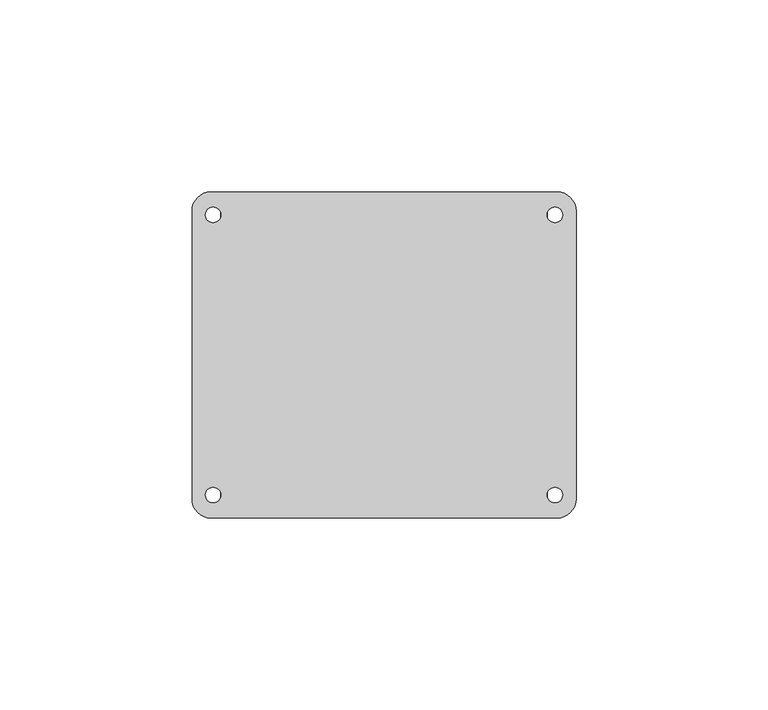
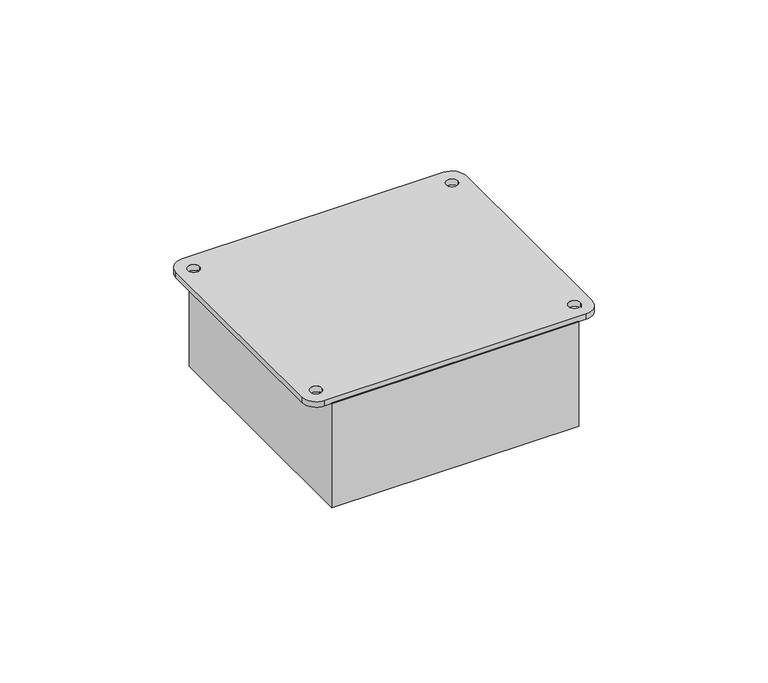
"""IFC4 building model written with IfcOpenShell, lengths in millimetres: light fixture geometry, GENILED_Светильник светодиодный_Griliato Tetris : Griliato Tetris x1 для ячейки 100x100 10Вт 3000К Микропризма."""

from ifc_helpers import new_model, si_unit, point, frame, frame_2d, origin, origin_with_axes, place, context, project, spatial, polyline, circle_curve, trimmed, segment, composite_curve, outline, extrude, source, transform, mapped, element, save


def light_fixture_b95e81a3(model_context):
    return source(origin(), model_context, "Body", "SweptSolid", [
        extrude(outline(polyline([(42.5, 42.5), (42.5, -42.5), (-42.5, -42.5), (-42.5, 42.5), (42.5, 42.5)])), origin_with_axes(), (0.0, 0.0, 1.0), 38.0),
        extrude(outline(composite_curve([segment(trimmed(circle_curve(frame_2d((45.0, 37.5)), 5.0), [point((45.0, 42.5))], [point((50.0, 37.5))], False, "CARTESIAN"), True, "CONTINUOUS"), segment(polyline([(50.0, 37.5), (50.0, -37.5)]), True, "CONTINUOUS"), segment(trimmed(circle_curve(frame_2d((45.0, -37.5)), 5.0), [point((50.0, -37.5))], [point((45.0, -42.5))], False, "CARTESIAN"), True, "CONTINUOUS"), segment(polyline([(45.0, -42.5), (-45.0, -42.5)]), True, "CONTINUOUS"), segment(trimmed(circle_curve(frame_2d((-45.0, -37.5)), 5.0), [point((-45.0, -42.5))], [point((-50.0, -37.5))], False, "CARTESIAN"), True, "CONTINUOUS"), segment(polyline([(-50.0, -37.5), (-50.0, 37.5)]), True, "CONTINUOUS"), segment(trimmed(circle_curve(frame_2d((-45.0, 37.5)), 5.0), [point((-50.0, 37.5))], [point((-45.0, 42.5))], False, "CARTESIAN"), True, "CONTINUOUS"), segment(polyline([(-45.0, 42.5), (45.0, 42.5)]), True, "CONTINUOUS")], self_intersect=False), holes=[composite_curve([segment(trimmed(circle_curve(frame_2d((44.5, 36.5)), 2.0), [point((42.5, 36.5))], [point((46.5, 36.5))], True, "CARTESIAN"), True, "CONTINUOUS"), segment(trimmed(circle_curve(frame_2d((44.5, 36.5)), 2.0), [point((46.5, 36.5))], [point((42.5, 36.5))], True, "CARTESIAN"), True, "CONTINUOUS")], self_intersect=False), composite_curve([segment(trimmed(circle_curve(frame_2d((-44.5, 36.5)), 2.0), [point((-46.5, 36.5))], [point((-42.5, 36.5))], True, "CARTESIAN"), True, "CONTINUOUS"), segment(trimmed(circle_curve(frame_2d((-44.5, 36.5)), 2.0), [point((-42.5, 36.5))], [point((-46.5, 36.5))], True, "CARTESIAN"), True, "CONTINUOUS")], self_intersect=False), composite_curve([segment(trimmed(circle_curve(frame_2d((44.5, -36.5)), 2.0), [point((42.5, -36.5))], [point((46.5, -36.5))], True, "CARTESIAN"), True, "CONTINUOUS"), segment(trimmed(circle_curve(frame_2d((44.5, -36.5)), 2.0), [point((46.5, -36.5))], [point((42.5, -36.5))], True, "CARTESIAN"), True, "CONTINUOUS")], self_intersect=False), composite_curve([segment(trimmed(circle_curve(frame_2d((-44.5, -36.5)), 2.0), [point((-46.5, -36.5))], [point((-42.5, -36.5))], True, "CARTESIAN"), True, "CONTINUOUS"), segment(trimmed(circle_curve(frame_2d((-44.5, -36.5)), 2.0), [point((-42.5, -36.5))], [point((-46.5, -36.5))], True, "CARTESIAN"), True, "CONTINUOUS")], self_intersect=False)]), frame((0.0, 0.0, 38.0), z_axis=(0.0, 0.0, 1.0), x_axis=(1.0, 0.0, 0.0)), (0.0, 0.0, 1.0), 2.0),
    ])


if __name__ == "__main__":
    model = new_model("IFC4")
    model_context = context("Model", 3, world=origin())
    ifc_project = project(units=[si_unit("LENGTHUNIT", "METRE", prefix="MILLI")], contexts=[model_context])
    site = spatial("IfcSite", under=ifc_project)
    building = spatial("IfcBuilding", under=site)
    placement = place(None, origin())
    light_fixture_shape = light_fixture_b95e81a3(model_context)
    element("IfcLightFixture", 1, ObjectType="GENILED_Светильник светодиодный_Griliato Tetris : Griliato Tetris x1 для ячейки 100x100 10Вт 3000К Микропризма", at=placement, inside=building, context=model_context, shape_type="MappedRepresentation", body=[
        mapped(light_fixture_shape, transform((0.0, 0.0, 0.0), x_axis=(1.0, 0.0, 0.0), y_axis=(0.0, 1.0, 0.0), z_axis=(0.0, 0.0, 1.0))),
    ])
    save(model, "model.ifc")
